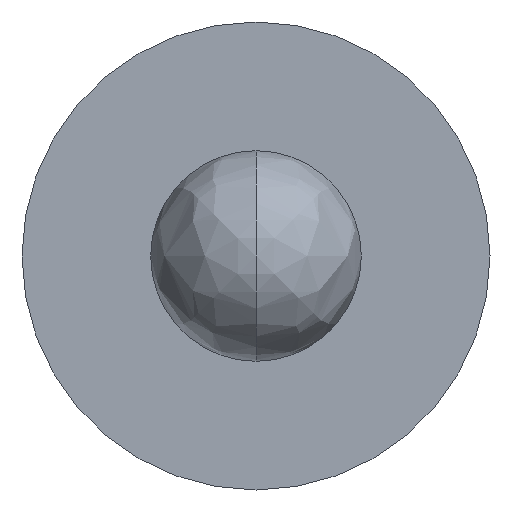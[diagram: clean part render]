
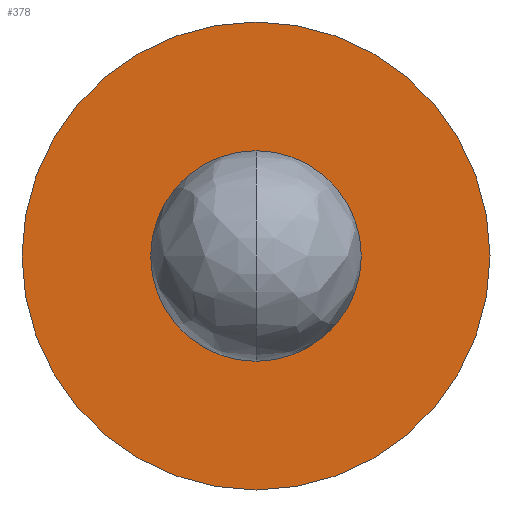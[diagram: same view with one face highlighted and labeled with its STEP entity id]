
A CAD part, front view. The second image highlights one B-rep face of the part: STEP entity #378.
In plain terms, the highlighted planar face has unit normal (0, -1, 0).
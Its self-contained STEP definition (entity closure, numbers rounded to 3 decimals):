
#105=CARTESIAN_POINT('',(0.,-14.501,0.));
#106=DIRECTION('',(0.,1.,0.));
#107=DIRECTION('',(0.,0.,1.));
#108=AXIS2_PLACEMENT_3D('',#105,#106,#107);
#110=CARTESIAN_POINT('',(0.,-14.501,0.));
#111=DIRECTION('',(0.,-1.,0.));
#112=DIRECTION('',(0.,0.,1.));
#113=AXIS2_PLACEMENT_3D('',#110,#111,#112);
#115=CARTESIAN_POINT('',(0.,-14.501,0.));
#116=DIRECTION('',(0.,-1.,0.));
#117=DIRECTION('',(0.,0.,1.));
#118=AXIS2_PLACEMENT_3D('',#115,#116,#117);
#124=CARTESIAN_POINT('',(0.,-14.501,0.));
#125=DIRECTION('',(0.,1.,0.));
#126=DIRECTION('',(0.,0.,1.));
#127=AXIS2_PLACEMENT_3D('',#124,#125,#126);
#166=CARTESIAN_POINT('',(0.,-14.501,1.));
#168=VERTEX_POINT('',#166);
#169=CARTESIAN_POINT('',(0.,-14.501,0.45));
#171=VERTEX_POINT('',#169);
#186=CARTESIAN_POINT('',(0.,-14.501,-1.));
#188=VERTEX_POINT('',#186);
#189=CARTESIAN_POINT('',(0.,-14.501,-0.45));
#191=VERTEX_POINT('',#189);
#363=CARTESIAN_POINT('',(0.,-14.501,0.));
#364=DIRECTION('',(0.,-1.,0.));
#365=DIRECTION('',(0.,0.,1.));
#366=AXIS2_PLACEMENT_3D('',#363,#364,#365);
#367=PLANE('',#366);
#368=ORIENTED_EDGE('',*,*,#358,.T.);
#369=ORIENTED_EDGE('',*,*,#342,.F.);
#370=EDGE_LOOP('',(#368,#369));
#371=FACE_OUTER_BOUND('',#370,.F.);
#373=ORIENTED_EDGE('',*,*,#372,.T.);
#375=ORIENTED_EDGE('',*,*,#374,.F.);
#376=EDGE_LOOP('',(#373,#375));
#377=FACE_BOUND('',#376,.F.);
#378=ADVANCED_FACE('',(#371,#377),#367,.T.);
#109=CIRCLE('',#108,1.);
#114=CIRCLE('',#113,1.);
#119=CIRCLE('',#118,0.45);
#128=CIRCLE('',#127,0.45);
#342=EDGE_CURVE('',#168,#188,#114,.T.);
#358=EDGE_CURVE('',#168,#188,#109,.T.);
#372=EDGE_CURVE('',#171,#191,#119,.T.);
#374=EDGE_CURVE('',#171,#191,#128,.T.);
